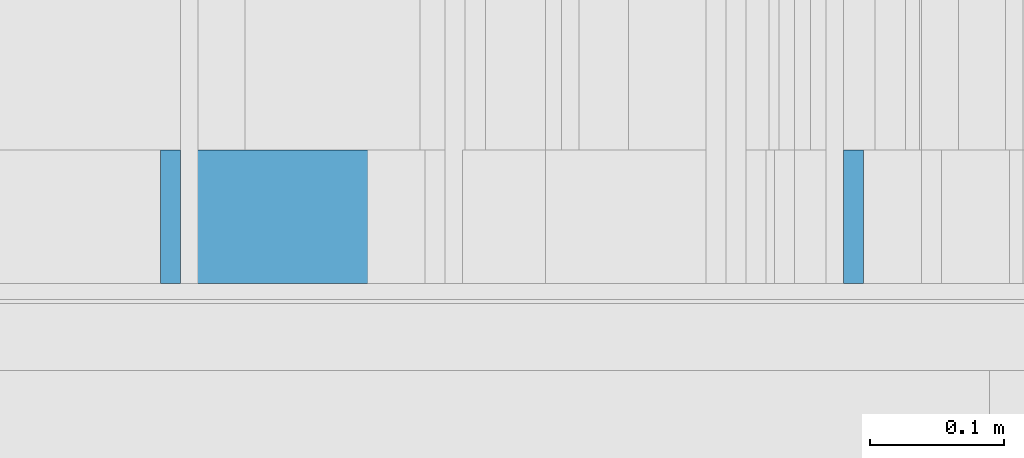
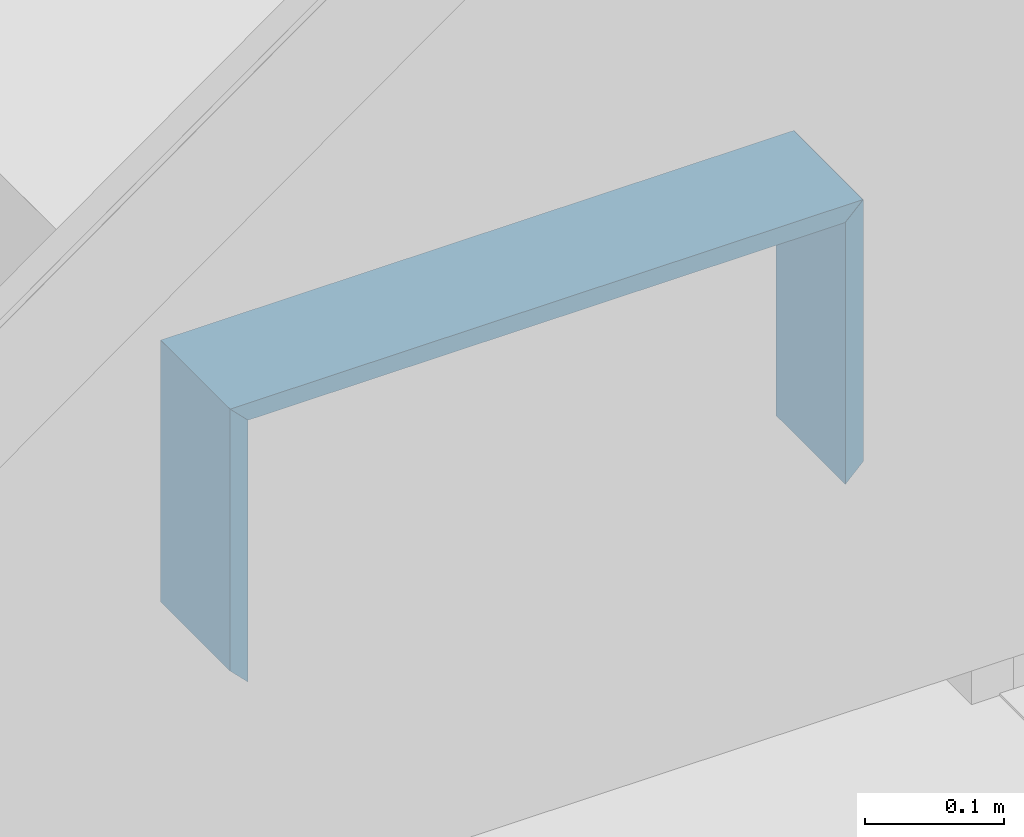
# One storey, part 202 of 583: 3 building element parts, 3 elements without a shape of their own.
"""IFC2X3 building model written with IfcOpenShell, lengths in metres."""

from ifc_helpers import new_model, entity, si_unit, converted_unit, derived_unit, money_unit, direction, frame, origin_with_axes, place, context, subcontext, project, spatial, polyline, outline, extrude, material, type_object, element, aggregate, save


model = new_model("IFC2X3")

# Units and contexts
model_context = context("Model", 3, precision=1e-05, world=origin_with_axes(), true_north=direction((0.0, 1.0)))
body_context = subcontext(model_context, "Body", "Model", "MODEL_VIEW", scale=1.0)
ifc_project = project(units=[si_unit("LENGTHUNIT", "METRE"), si_unit("AREAUNIT", "SQUARE_METRE"), si_unit("VOLUMEUNIT", "CUBIC_METRE"), si_unit("ABSORBEDDOSEUNIT", "GRAY"), si_unit("AMOUNTOFSUBSTANCEUNIT", "MOLE"), si_unit("DOSEEQUIVALENTUNIT", "SIEVERT"), si_unit("ELECTRICCAPACITANCEUNIT", "FARAD"), si_unit("ELECTRICCHARGEUNIT", "COULOMB"), si_unit("ELECTRICCONDUCTANCEUNIT", "SIEMENS"), si_unit("ELECTRICCURRENTUNIT", "AMPERE"), si_unit("ELECTRICRESISTANCEUNIT", "OHM"), si_unit("ELECTRICVOLTAGEUNIT", "VOLT"), si_unit("ENERGYUNIT", "JOULE"), si_unit("FORCEUNIT", "NEWTON"), si_unit("FREQUENCYUNIT", "HERTZ"), si_unit("ILLUMINANCEUNIT", "LUX"), si_unit("INDUCTANCEUNIT", "HENRY"), si_unit("LUMINOUSFLUXUNIT", "LUMEN"), si_unit("LUMINOUSINTENSITYUNIT", "CANDELA"), si_unit("MAGNETICFLUXDENSITYUNIT", "TESLA"), si_unit("MAGNETICFLUXUNIT", "WEBER"), si_unit("MASSUNIT", "GRAM"), converted_unit("PLANEANGLEUNIT", "degree", entity("IfcReal", 0.0174532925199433), si_unit("PLANEANGLEUNIT", "RADIAN"), dimensions=[0, 0, 0, 0, 0, 0, 0]), si_unit("POWERUNIT", "WATT"), si_unit("PRESSUREUNIT", "PASCAL"), si_unit("RADIOACTIVITYUNIT", "BECQUEREL"), si_unit("SOLIDANGLEUNIT", "STERADIAN"), si_unit("THERMODYNAMICTEMPERATUREUNIT", "KELVIN"), si_unit("TIMEUNIT", "SECOND"), derived_unit("ACCELERATIONUNIT", [(si_unit("LENGTHUNIT", "METRE"), 1), (si_unit("TIMEUNIT", "SECOND"), -2)]), derived_unit("ANGULARVELOCITYUNIT", [(converted_unit("PLANEANGLEUNIT", "degree", entity("IfcReal", 0.0174532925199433), si_unit("PLANEANGLEUNIT", "RADIAN"), dimensions=[0, 0, 0, 0, 0, 0, 0]), 1), (si_unit("TIMEUNIT", "SECOND"), -1)]), derived_unit("CURVATUREUNIT", [(converted_unit("PLANEANGLEUNIT", "degree", entity("IfcReal", 0.0174532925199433), si_unit("PLANEANGLEUNIT", "RADIAN"), dimensions=[0, 0, 0, 0, 0, 0, 0]), 1), (si_unit("LENGTHUNIT", "METRE"), -1)]), derived_unit("DYNAMICVISCOSITYUNIT", [(si_unit("PRESSUREUNIT", "PASCAL"), 1), (si_unit("TIMEUNIT", "SECOND"), 1)]), derived_unit("HEATFLUXDENSITYUNIT", [(si_unit("POWERUNIT", "WATT"), 1), (si_unit("LENGTHUNIT", "METRE"), -2)]), derived_unit("HEATINGVALUEUNIT", [(si_unit("ENERGYUNIT", "JOULE"), 1), (si_unit("MASSUNIT", "GRAM"), -1)]), derived_unit("INTEGERCOUNTRATEUNIT", [(si_unit("TIMEUNIT", "SECOND"), -1)]), derived_unit("IONCONCENTRATIONUNIT", [(si_unit("MASSUNIT", "GRAM"), 1), (si_unit("VOLUMEUNIT", "CUBIC_METRE"), -1)]), derived_unit("ISOTHERMALMOISTURECAPACITYUNIT", [(si_unit("VOLUMEUNIT", "CUBIC_METRE"), 1), (si_unit("MASSUNIT", "GRAM"), -1)]), derived_unit("KINEMATICVISCOSITYUNIT", [(si_unit("AREAUNIT", "SQUARE_METRE"), 1), (si_unit("TIMEUNIT", "SECOND"), -1)]), derived_unit("LINEARFORCEUNIT", [(si_unit("FORCEUNIT", "NEWTON"), 1), (si_unit("LENGTHUNIT", "METRE"), -1)]), derived_unit("LINEARMOMENTUNIT", [(si_unit("FORCEUNIT", "NEWTON"), 1), (si_unit("LENGTHUNIT", "METRE"), -1)]), derived_unit("LINEARSTIFFNESSUNIT", [(si_unit("FORCEUNIT", "NEWTON"), 1), (si_unit("LENGTHUNIT", "METRE"), -1)]), derived_unit("LINEARVELOCITYUNIT", [(si_unit("LENGTHUNIT", "METRE"), 1), (si_unit("TIMEUNIT", "SECOND"), -1)]), derived_unit("LUMINOUSINTENSITYDISTRIBUTIONUNIT", [(si_unit("LUMINOUSINTENSITYUNIT", "CANDELA"), 1), (si_unit("LUMINOUSFLUXUNIT", "LUMEN"), -1)]), derived_unit("MASSDENSITYUNIT", [(si_unit("MASSUNIT", "GRAM"), 1), (si_unit("VOLUMEUNIT", "CUBIC_METRE"), -1)]), derived_unit("MASSFLOWRATEUNIT", [(si_unit("MASSUNIT", "GRAM"), 1), (si_unit("TIMEUNIT", "SECOND"), -1)]), derived_unit("MASSPERLENGTHUNIT", [(si_unit("MASSUNIT", "GRAM"), 1), (si_unit("LENGTHUNIT", "METRE"), -1)]), derived_unit("MODULUSOFELASTICITYUNIT", [(si_unit("FORCEUNIT", "NEWTON"), 1), (si_unit("AREAUNIT", "SQUARE_METRE"), -1)]), derived_unit("MODULUSOFLINEARSUBGRADEREACTIONUNIT", [(si_unit("FORCEUNIT", "NEWTON"), 1), (si_unit("LENGTHUNIT", "METRE"), -2)]), derived_unit("MODULUSOFROTATIONALSUBGRADEREACTIONUNIT", [(si_unit("FORCEUNIT", "NEWTON"), 1), (si_unit("LENGTHUNIT", "METRE"), 1)]), derived_unit("MODULUSOFSUBGRADEREACTIONUNIT", [(si_unit("FORCEUNIT", "NEWTON"), 1), (si_unit("VOLUMEUNIT", "CUBIC_METRE"), -1)]), derived_unit("MOISTUREDIFFUSIVITYUNIT", [(si_unit("VOLUMEUNIT", "CUBIC_METRE"), 1), (si_unit("TIMEUNIT", "SECOND"), -1)]), derived_unit("MOLECULARWEIGHTUNIT", [(si_unit("MASSUNIT", "GRAM"), 1), (si_unit("AMOUNTOFSUBSTANCEUNIT", "MOLE"), -1)]), derived_unit("PLANARFORCEUNIT", [(si_unit("FORCEUNIT", "NEWTON"), 1), (si_unit("LENGTHUNIT", "METRE"), -2)]), derived_unit("ROTATIONALFREQUENCYUNIT", [(si_unit("TIMEUNIT", "SECOND"), -1)]), derived_unit("ROTATIONALMASSUNIT", [(si_unit("MASSUNIT", "GRAM"), 1), (si_unit("LENGTHUNIT", "METRE"), 2)]), derived_unit("ROTATIONALSTIFFNESSUNIT", [(si_unit("FORCEUNIT", "NEWTON"), 1), (si_unit("LENGTHUNIT", "METRE"), 1), (converted_unit("PLANEANGLEUNIT", "degree", entity("IfcReal", 0.0174532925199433), si_unit("PLANEANGLEUNIT", "RADIAN"), dimensions=[0, 0, 0, 0, 0, 0, 0]), -1)]), derived_unit("SECTIONAREAINTEGRALUNIT", [(si_unit("LENGTHUNIT", "METRE"), 5)]), derived_unit("SECTIONMODULUSUNIT", [(si_unit("LENGTHUNIT", "METRE"), 3)]), derived_unit("SHEARMODULUSUNIT", [(si_unit("FORCEUNIT", "NEWTON"), 1), (si_unit("AREAUNIT", "SQUARE_METRE"), -1)]), derived_unit("SOUNDPOWERUNIT", [(si_unit("ENERGYUNIT", "JOULE"), 1), (si_unit("TIMEUNIT", "SECOND"), -1)]), derived_unit("SPECIFICHEATCAPACITYUNIT", [(si_unit("FORCEUNIT", "NEWTON"), 1), (si_unit("MASSUNIT", "GRAM"), -1), (si_unit("THERMODYNAMICTEMPERATUREUNIT", "KELVIN"), -1)]), derived_unit("TEMPERATUREGRADIENTUNIT", [(si_unit("THERMODYNAMICTEMPERATUREUNIT", "KELVIN"), 1), (si_unit("LENGTHUNIT", "METRE"), -1)]), derived_unit("THERMALADMITTANCEUNIT", [(si_unit("POWERUNIT", "WATT"), 1), (si_unit("AREAUNIT", "SQUARE_METRE"), -1), (si_unit("THERMODYNAMICTEMPERATUREUNIT", "KELVIN"), -1)]), derived_unit("THERMALCONDUCTANCEUNIT", [(si_unit("POWERUNIT", "WATT"), 1), (si_unit("LENGTHUNIT", "METRE"), -1), (si_unit("THERMODYNAMICTEMPERATUREUNIT", "KELVIN"), -1)]), derived_unit("THERMALEXPANSIONCOEFFICIENTUNIT", [(si_unit("THERMODYNAMICTEMPERATUREUNIT", "KELVIN"), -1)]), derived_unit("THERMALRESISTANCEUNIT", [(si_unit("AREAUNIT", "SQUARE_METRE"), 1), (si_unit("POWERUNIT", "WATT"), -1)]), derived_unit("THERMALTRANSMITTANCEUNIT", [(si_unit("POWERUNIT", "WATT"), 1), (si_unit("AREAUNIT", "SQUARE_METRE"), -1), (si_unit("THERMODYNAMICTEMPERATUREUNIT", "KELVIN"), -1)]), derived_unit("TORQUEUNIT", [(si_unit("FORCEUNIT", "NEWTON"), 1), (si_unit("LENGTHUNIT", "METRE"), 1)]), derived_unit("VAPORPERMEABILITYUNIT", [(si_unit("MASSUNIT", "GRAM"), 1), (si_unit("TIMEUNIT", "SECOND"), -1)]), derived_unit("VOLUMETRICFLOWRATEUNIT", [(si_unit("VOLUMEUNIT", "CUBIC_METRE"), 1), (si_unit("TIMEUNIT", "SECOND"), -1)]), derived_unit("WARPINGCONSTANTUNIT", [(si_unit("LENGTHUNIT", "METRE"), 6)]), derived_unit("WARPINGMOMENTUNIT", [(si_unit("FORCEUNIT", "NEWTON"), 1), (si_unit("LENGTHUNIT", "METRE"), 2)]), money_unit("GBP")], contexts=[model_context])

# Site, building, storey
site_placement = place(None, origin_with_axes())
site = spatial("IfcSite", under=ifc_project, at=site_placement, Name="Site", CompositionType="ELEMENT")
building_placement = place(site_placement, origin_with_axes())
building = spatial("IfcBuilding", under=site, at=building_placement, Name="Building01", CompositionType="ELEMENT")
storey_placement = place(building_placement, frame((0.0, 0.0, 20.78), z_axis=(0.0, 0.0, 1.0), x_axis=(1.0, 0.0, 0.0)))
storey = spatial("IfcBuildingStorey", under=building, at=storey_placement, Name="RL", CompositionType="ELEMENT", Elevation=20.78)

# Wall, building element part
wall_type = type_object("IfcWallType", Name="SHE_A-Walls_Type06d_ExternalWallInsulation_48mm", PredefinedType="NOTDEFINED")
wall_1_placement = place(storey_placement, frame((6.5, 8.64, -20.51), z_axis=(0.0, 1.0, 0.0), x_axis=(0.0, 0.0, 1.0)))
wall_1 = element("IfcWall", 1, at=wall_1_placement, inside=storey, type_object=wall_type, Name="6D", ObjectType="SHE_A-Walls_Type06d_ExternalWallInsulation_48mm")
ifc_material = material(Name="A_BSUK_Walls_Timber")
building_element_part_1_placement = place(wall_1_placement, origin_with_axes())
building_element_part_1 = element("IfcBuildingElementPart", 2, at=building_element_part_1_placement, material=ifc_material, Name="2", context=body_context, shape_type="SweptSolid", body=[
    extrude(outline(polyline([(0.293, 0.063), (0.063, 0.063), (0.048, 0.048), (0.278, 0.048), (0.293, 0.063)])), frame((0.0, 0.0, 0.015), z_axis=(0.0, 0.0, 1.0), x_axis=(1.0, 0.0, 0.0)), (0.0, 0.0, 1.0), 0.1),
])
aggregate(wall_1, [building_element_part_1])

wall_2_placement = place(storey_placement, frame((6.5, 8.64, -20.28), z_axis=(0.0, 1.0, 0.0), x_axis=(-1.0, 0.0, 0.0)))
wall_2 = element("IfcWall", 3, at=wall_2_placement, inside=storey, type_object=wall_type, Name="6D", ObjectType="SHE_A-Walls_Type06d_ExternalWallInsulation_48mm")
building_element_part_2_placement = place(wall_2_placement, origin_with_axes())
building_element_part_2 = element("IfcBuildingElementPart", 4, at=building_element_part_2_placement, material=ifc_material, Name="2", context=body_context, shape_type="SweptSolid", body=[
    extrude(outline(polyline([(0.463, 0.063), (-0.063, 0.063), (-0.048, 0.048), (0.448, 0.048), (0.463, 0.063)])), frame((0.0, 0.0, 0.015), z_axis=(0.0, 0.0, 1.0), x_axis=(1.0, 0.0, 0.0)), (0.0, 0.0, 1.0), 0.1),
])
aggregate(wall_2, [building_element_part_2])

wall_3_placement = place(storey_placement, frame((6.1, 8.64, -20.28), z_axis=(0.0, 1.0, 0.0), x_axis=(0.0, 0.0, -1.0)))
wall_3 = element("IfcWall", 5, at=wall_3_placement, inside=storey, type_object=wall_type, Name="6D", ObjectType="SHE_A-Walls_Type06d_ExternalWallInsulation_48mm")
building_element_part_3_placement = place(wall_3_placement, origin_with_axes())
building_element_part_3 = element("IfcBuildingElementPart", 6, at=building_element_part_3_placement, material=ifc_material, Name="2", context=body_context, shape_type="SweptSolid", body=[
    extrude(outline(polyline([(0.167, 0.063), (-0.063, 0.063), (-0.048, 0.048), (0.182, 0.048), (0.167, 0.063)])), frame((0.0, 0.0, 0.015), z_axis=(0.0, 0.0, 1.0), x_axis=(1.0, 0.0, 0.0)), (0.0, 0.0, 1.0), 0.1),
])
aggregate(wall_3, [building_element_part_3])

save(model, "model.ifc")
